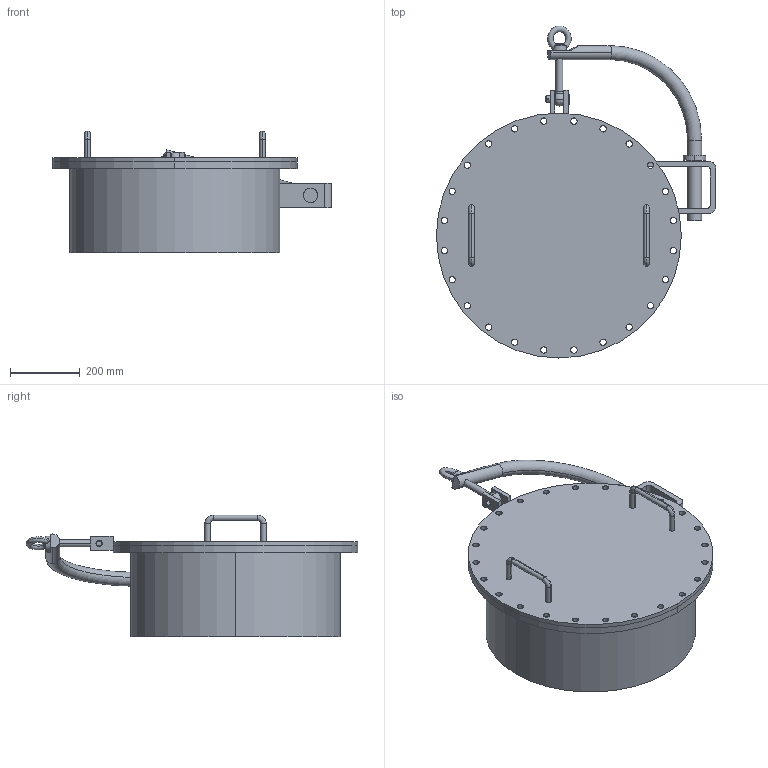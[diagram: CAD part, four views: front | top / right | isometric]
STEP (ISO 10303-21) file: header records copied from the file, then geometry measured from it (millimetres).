
FILE_DESCRIPTION (( 'STEP AP203' ), '1' );
FILE_NAME ('DIN 28124 - MA 600x250.STEP', '2016-06-27T07:33:00', ( '' ), ( '' ), 'SwSTEP 2.0', 'SolidWorks 2013', '' );
FILE_SCHEMA (( 'CONFIG_CONTROL_DESIGN' ));
Length unit declared in the file: millimetre
Products named in the file (12): DIN 1444; Stutzenrohr; DIN 28124-4 Pos. 4 - Aufh鄚ge飉en; DIN 28031  Form A_DN 600; DIN 28124-4; DIN 28124-1 [Mannlochverschlüsse für drucklose Behälter und Apparate] Form DA_600; DIN 28124-4 Pos. 1 - Schwenkarm_DN 600; DIN 28124-4 Pos. 2 - Bund_DN 600; DIN 28124-4 Pos. 3V - Tragbügel vertikal_DN 600; DIN 28124-4 Pos. 6 - Mutter DIN 582 M20; DIN 28124 - MA 600x250; DIN 28124-4 Pos. 5 - Augenschraube
Assembly tree (12 placements, depth 3):
  DIN 28124 - MA 600x250
    Stutzenrohr
    DIN 28031  Form A_DN 600
    DIN 28124-1 [Mannlochverschlüsse für drucklose Behälter und Apparate] Form DA_600
    DIN 28124-4
      DIN 28124-4 Pos. 1 - Schwenkarm_DN 600
      DIN 28124-4 Pos. 2 - Bund_DN 600
      DIN 28124-4 Pos. 3V - Tragbügel vertikal_DN 600
      DIN 28124-4 Pos. 6 - Mutter DIN 582 M20
      DIN 28124-4 Pos. 5 - Augenschraube
      DIN 1444
      DIN 28124-4 Pos. 4 - Aufh鄚ge飉en  x2
Bounding box: 797.95 x 949 x 348 mm (x, y, z)
Volume: 10988097 mm3; surface area: 2320826 mm2
Topology: 11 solids, 11 shells, 227 faces, 583 edges, 376 vertices
Faces by surface type: cylinder 154, plane 42, torus 16, cone 10, sphere 3, bspline 2
Entity records: 8795 total; most frequent: CARTESIAN_POINT 1640, DIRECTION 1352, ORIENTED_EDGE 1124, AXIS2_PLACEMENT_3D 576, EDGE_CURVE 562, VERTEX_POINT 362, CIRCLE 343, EDGE_LOOP 340
